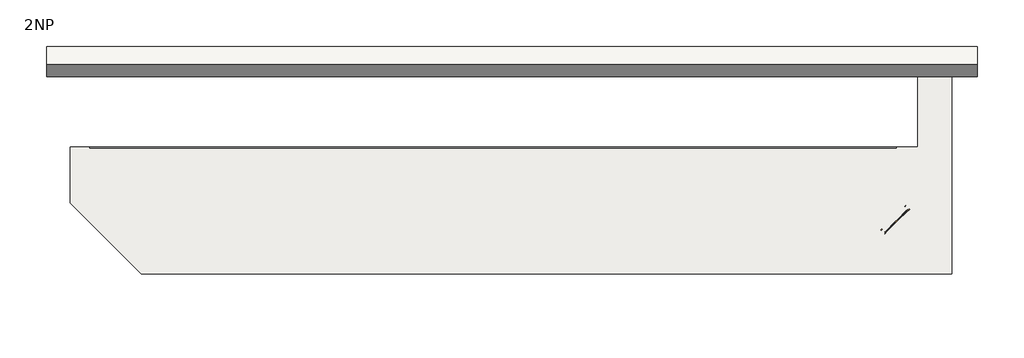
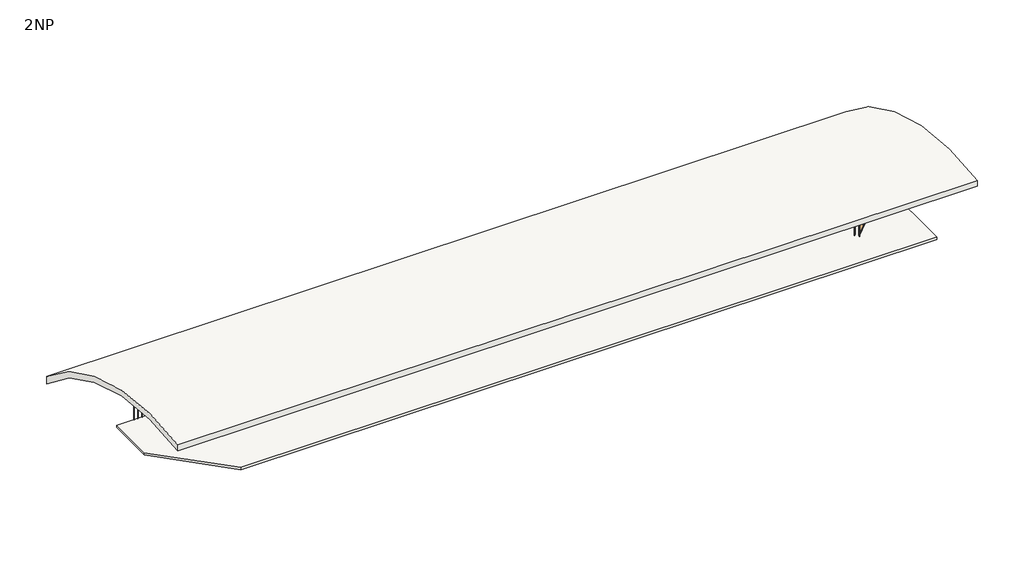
# One storey: 1 door, 1 railing, 1 roof, 1 slab.
"""IFC4 building model written with IfcOpenShell, lengths in millimetres."""

from ifc_helpers import new_model, si_unit, point, frame, frame_2d, origin, place, context, project, spatial, polyline, circle_curve, trimmed, segment, composite_curve, outline, extrude, transform, mapped, element, save
from components import door_1800_x_1970mm_ce9160c6, railing_1100mm_11e5196f, railing_1100mm_f5e6f717

model = new_model("IFC4")

# Units and contexts
model_context = context("Model", 3, world=origin())
ifc_project = project(units=[si_unit("LENGTHUNIT", "METRE", prefix="MILLI")], contexts=[model_context])

# Site, building, storey
site = spatial("IfcSite", under=ifc_project)
building = spatial("IfcBuilding", under=site)
storey = spatial("IfcBuildingStorey", under=building, Name="2NP", Elevation=4000.0)

# Door
placement = place(None, origin())
door_1800_x_1970mm_shape = door_1800_x_1970mm_ce9160c6(model_context)
element("IfcDoor", 1, ObjectType="Dvoukridle prosklene : 1800 x 1970mm", at=placement, inside=storey, context=model_context, shape_type="MappedRepresentation", body=[
    mapped(door_1800_x_1970mm_shape, transform((35269.5413404, -1561.4077171, 4000.0), x_axis=(-0.7071067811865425, -0.7071067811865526, 0.0), y_axis=(0.7071067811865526, -0.7071067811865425, 0.0), z_axis=(0.0, 0.0, 1.0))),
])

# Railing
railing_1100mm_shape = railing_1100mm_11e5196f(model_context)
railing_1100mm_2_shape = railing_1100mm_f5e6f717(model_context)
element("IfcRailing", 2, ObjectType="1100mm", at=placement, inside=storey, context=model_context, shape_type="MappedRepresentation", body=[
    mapped(railing_1100mm_shape, transform((0.0, 0.0, 0.0), x_axis=(1.0, 0.0, 0.0), y_axis=(0.0, 1.0, 0.0), z_axis=(0.0, 0.0, 1.0))),
    mapped(railing_1100mm_2_shape, transform((0.0, 0.0, 0.0), x_axis=(1.0, 0.0, 0.0), y_axis=(0.0, 1.0, 0.0), z_axis=(0.0, 0.0, 1.0))),
])

# Roof
element("IfcRoof", 3, ObjectType="Generic - 400mm", at=placement, inside=storey, context=model_context, shape_type="SweptSolid", body=[
    extrude(outline(composite_curve([segment(trimmed(circle_curve(frame_2d((-3782.5530793, -9232.9575956)), 18209.3296337), [point((-6745.0106033, 8733.7764183))], [point((8250.6718533, 4433.8336676))], False, "CARTESIAN"), True, "CONTINUOUS"), segment(polyline([(8250.6718533, 4433.8336676), (8250.6718533, 3896.1596529)]), True, "CONTINUOUS"), segment(trimmed(circle_curve(frame_2d((-3782.5530793, -9232.9575956)), 17809.3296337), [point((8250.6718533, 3896.1596529))], [point((-6745.0106033, 8328.2515718))], True, "CARTESIAN"), True, "CONTINUOUS"), segment(polyline([(-6745.0106033, 8328.2515718), (-6745.0106033, 8733.7764183)]), True, "CONTINUOUS")], self_intersect=False)), frame((-12744.3244727, 0.0, 0.0), z_axis=(1.0, 0.0, 0.0), x_axis=(0.0, 1.0, 0.0)), (0.0, 0.0, 1.0), 52667.0),
])

# Slab
element("IfcSlab", 4, ObjectType="Generic 150mm", at=placement, inside=storey, context=model_context, shape_type="SweptSolid", body=[
    extrude(outline(polyline([(-11410.8244727, -601.928028), (-11410.8244727, 2541.5551306), (36558.4255273, 2541.5551306), (36558.4255273, 7108.0551306), (38455.6755273, 7108.0551306), (38455.6755273, -4624.9448694), (-7387.8076313, -4624.9448694), (-11410.8244727, -601.928028)])), frame((0.0, 0.0, 3850.0), z_axis=(0.0, 0.0, 1.0), x_axis=(1.0, 0.0, 0.0)), (0.0, 0.0, 1.0), 150.0),
])

save(model, "model.ifc")
